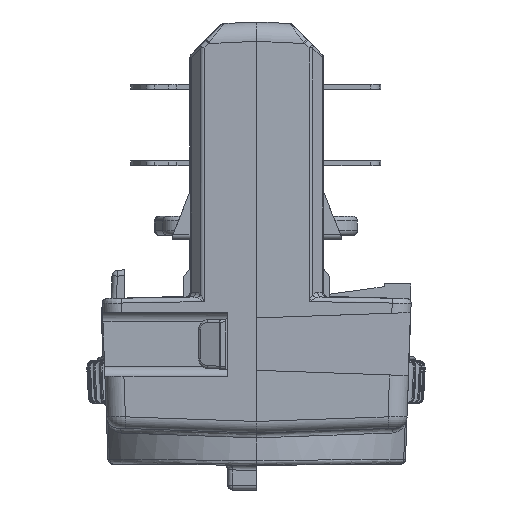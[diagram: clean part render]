
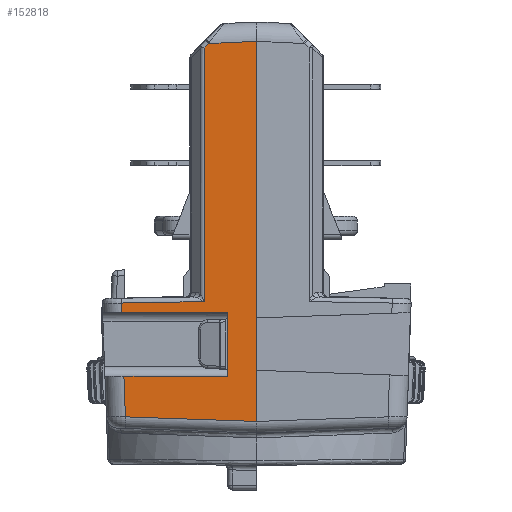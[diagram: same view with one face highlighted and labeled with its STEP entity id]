
A CAD part, left-side view. The second image highlights one B-rep face of the part: STEP entity #152818.
In plain terms, the highlighted planar face has unit normal (-1, 0.018, 0).
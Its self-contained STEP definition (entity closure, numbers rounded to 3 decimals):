
#8948=CARTESIAN_POINT('',(-22.379,-23.573,
-10.252));
#8950=DIRECTION('',(0.,0.,1.));
#8951=VECTOR('',#8950,39.321);
#8952=CARTESIAN_POINT('',(-22.379,-23.573,
-10.252));
#8953=LINE('',#8952,#8951);
#15609=CARTESIAN_POINT('',(-22.142,-9.989,
-9.777));
#15670=CARTESIAN_POINT('',(-22.14,-9.836,
-5.562));
#15676=DIRECTION('',(0.017,1.,0.));
#15677=VECTOR('',#15676,10.739);
#15678=CARTESIAN_POINT('',(-22.327,-20.573,
-5.562));
#15679=LINE('',#15678,#15677);
#15700=DIRECTION('',(-0.017,-1.,0.));
#15701=VECTOR('',#15700,10.979);
#15702=CARTESIAN_POINT('',(-22.135,-9.596,
1.057));
#15703=LINE('',#15702,#15701);
#15704=CARTESIAN_POINT('',(-22.135,-9.596,
1.057));
#71388=DIRECTION('',(0.001,0.036,0.999));
#71389=VECTOR('',#71388,4.218);
#71390=CARTESIAN_POINT('',(-22.142,-9.989,
-9.777));
#71391=LINE('',#71390,#71389);
#71392=DIRECTION('',(0.001,0.036,0.999));
#71393=VECTOR('',#71392,0.941);
#71394=CARTESIAN_POINT('',(-22.135,-9.596,
1.057));
#71395=LINE('',#71394,#71393);
#71396=DIRECTION('',(-0.017,-1.,0.017));
#71397=VECTOR('',#71396,8.587);
#71398=CARTESIAN_POINT('',(-22.135,-9.562,
1.998));
#71399=LINE('',#71398,#71397);
#71400=DIRECTION('',(-0.012,-0.707,0.707));
#71401=VECTOR('',#71400,0.666);
#71402=CARTESIAN_POINT('',(-22.285,-18.146,
28.37));
#71403=LINE('',#71402,#71401);
#71404=DIRECTION('',(-0.017,-0.999,0.046));
#71405=VECTOR('',#71404,4.962);
#71406=CARTESIAN_POINT('',(-22.293,-18.617,
28.841));
#71407=LINE('',#71406,#71405);
#71408=DIRECTION('',(0.017,0.999,0.035));
#71409=VECTOR('',#71408,13.595);
#71410=CARTESIAN_POINT('',(-22.379,-23.573,
-10.252));
#71411=LINE('',#71410,#71409);
#71416=DIRECTION('',(0.,0.,-1.));
#71417=VECTOR('',#71416,6.619);
#71418=CARTESIAN_POINT('',(-22.327,-20.573,
1.057));
#71419=LINE('',#71418,#71417);
#79658=DIRECTION('',(0.,0.,-1.));
#79659=VECTOR('',#79658,26.223);
#79660=CARTESIAN_POINT('',(-22.285,-18.146,
28.37));
#79661=LINE('',#79660,#79659);
#102629=VERTEX_POINT('',#8948);
#102630=CARTESIAN_POINT('',(-22.379,-23.573,
29.069));
#102631=VERTEX_POINT('',#102630);
#104341=VERTEX_POINT('',#15704);
#104342=CARTESIAN_POINT('',(-22.327,-20.573,
1.057));
#104343=VERTEX_POINT('',#104342);
#104396=VERTEX_POINT('',#15609);
#104397=VERTEX_POINT('',#15670);
#104400=CARTESIAN_POINT('',(-22.327,-20.573,
-5.562));
#104401=VERTEX_POINT('',#104400);
#104402=CARTESIAN_POINT('',(-22.135,-9.562,
1.998));
#104403=VERTEX_POINT('',#104402);
#104404=CARTESIAN_POINT('',(-22.285,-18.146,
2.147));
#104405=VERTEX_POINT('',#104404);
#104406=CARTESIAN_POINT('',(-22.285,-18.146,
28.37));
#104407=VERTEX_POINT('',#104406);
#104408=CARTESIAN_POINT('',(-22.293,-18.617,
28.841));
#104409=VERTEX_POINT('',#104408);
#152796=CARTESIAN_POINT('',(-22.332,-20.841,
9.409));
#152797=DIRECTION('',(-1.,0.017,0.));
#152798=DIRECTION('',(-0.017,-1.,0.));
#152799=AXIS2_PLACEMENT_3D('',#152796,#152797,#152798);
#152800=PLANE('',#152799);
#152801=ORIENTED_EDGE('',*,*,#121318,.T.);
#152802=ORIENTED_EDGE('',*,*,#121335,.F.);
#152804=ORIENTED_EDGE('',*,*,#152803,.F.);
#152805=ORIENTED_EDGE('',*,*,#121392,.F.);
#152806=ORIENTED_EDGE('',*,*,#121408,.T.);
#152808=ORIENTED_EDGE('',*,*,#152807,.T.);
#152810=ORIENTED_EDGE('',*,*,#152809,.F.);
#152811=ORIENTED_EDGE('',*,*,#152785,.T.);
#152812=ORIENTED_EDGE('',*,*,#151830,.T.);
#152813=ORIENTED_EDGE('',*,*,#114126,.F.);
#152815=ORIENTED_EDGE('',*,*,#152814,.T.);
#152816=EDGE_LOOP('',(#152801,#152802,#152804,#152805,#152806,#152808,#152810,
#152811,#152812,#152813,#152815));
#152817=FACE_OUTER_BOUND('',#152816,.F.);
#152818=ADVANCED_FACE('',(#152817),#152800,.T.);
#114126=EDGE_CURVE('',#102629,#102631,#8953,.T.);
#121318=EDGE_CURVE('',#104396,#104397,#71391,.T.);
#121335=EDGE_CURVE('',#104401,#104397,#15679,.T.);
#121392=EDGE_CURVE('',#104341,#104343,#15703,.T.);
#121408=EDGE_CURVE('',#104341,#104403,#71395,.T.);
#151830=EDGE_CURVE('',#104409,#102631,#71407,.T.);
#152785=EDGE_CURVE('',#104407,#104409,#71403,.T.);
#152803=EDGE_CURVE('',#104343,#104401,#71419,.T.);
#152807=EDGE_CURVE('',#104403,#104405,#71399,.T.);
#152809=EDGE_CURVE('',#104407,#104405,#79661,.T.);
#152814=EDGE_CURVE('',#102629,#104396,#71411,.T.);
